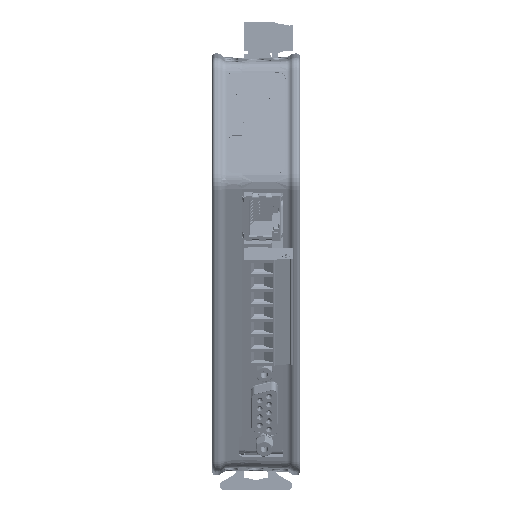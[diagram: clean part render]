
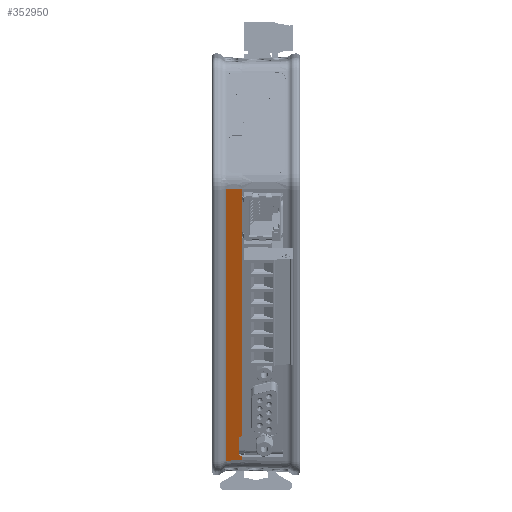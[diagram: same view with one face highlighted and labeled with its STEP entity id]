
A CAD part, top view. The second image highlights one B-rep face of the part: STEP entity #352950.
In plain terms, the highlighted planar face has unit normal (0.035, -0.406, 0.913).
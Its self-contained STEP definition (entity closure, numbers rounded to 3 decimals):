
#2212 = CARTESIAN_POINT ( 'NONE',  ( 9.198, 23.104, 98.178 ) ) ;
#6079 = EDGE_LOOP ( 'NONE', ( #131573, #271629, #190141, #157944, #29336, #159689, #204105, #223811 ) ) ;
#20238 = FACE_OUTER_BOUND ( 'NONE', #6079, .T. ) ;
#23714 = EDGE_CURVE ( 'NONE', #391336, #168625, #418589, .T. ) ;
#29336 = ORIENTED_EDGE ( 'NONE', *, *, #341582, .F. ) ;
#32552 = EDGE_CURVE ( 'NONE', #86167, #354583, #309808, .T. ) ;
#38588 = CARTESIAN_POINT ( 'NONE',  ( 4.292, -60.548, 61.122 ) ) ;
#40645 = CARTESIAN_POINT ( 'NONE',  ( 50.079, -20.879, 77.033 ) ) ;
#41532 = VECTOR ( 'NONE', #260996, 1000. ) ;
#47466 = EDGE_CURVE ( 'NONE', #168625, #354583, #231011, .T. ) ;
#56229 = CARTESIAN_POINT ( 'NONE',  ( 8.2, 23.09, 98.21 ) ) ;
#58538 = CARTESIAN_POINT ( 'NONE',  ( -35.214, -25.938, 78.041 ) ) ;
#80427 = CARTESIAN_POINT ( 'NONE',  ( 9.2, 23.104, 98.178 ) ) ;
#86167 = VERTEX_POINT ( 'NONE', #252632 ) ;
#89137 = CARTESIAN_POINT ( 'NONE',  ( 4.292, 23.034, 98.335 ) ) ;
#92796 = DIRECTION ( 'NONE',  ( 0., -0.914, -0.407 ) ) ;
#93790 = VECTOR ( 'NONE', #375536, 1000. ) ;
#95036 = VERTEX_POINT ( 'NONE', #80427 ) ;
#106268 = VECTOR ( 'NONE', #342891, 1000. ) ;
#108242 = AXIS2_PLACEMENT_3D ( 'NONE', #181439, #109482, #342651 ) ;
#109482 = DIRECTION ( 'NONE',  ( 0.035, -0.406, 0.913 ) ) ;
#110472 = VERTEX_POINT ( 'NONE', #386645 ) ;
#116096 = VECTOR ( 'NONE', #312918, 1000. ) ;
#117798 = LINE ( 'NONE', #56229, #116096 ) ;
#125349 = CARTESIAN_POINT ( 'NONE',  ( 9.2, -52.795, 64.386 ) ) ;
#131573 = ORIENTED_EDGE ( 'NONE', *, *, #23714, .F. ) ;
#157944 = ORIENTED_EDGE ( 'NONE', *, *, #328809, .T. ) ;
#159689 = ORIENTED_EDGE ( 'NONE', *, *, #255559, .T. ) ;
#163451 = LINE ( 'NONE', #2212, #41532 ) ;
#168625 = VERTEX_POINT ( 'NONE', #347091 ) ;
#170049 = DIRECTION ( 'NONE',  ( 0.766, 0.598, 0.237 ) ) ;
#181439 = CARTESIAN_POINT ( 'NONE',  ( 9.198, 23.104, 98.178 ) ) ;
#182808 = VECTOR ( 'NONE', #323124, 1000. ) ;
#190141 = ORIENTED_EDGE ( 'NONE', *, *, #396748, .T. ) ;
#204105 = ORIENTED_EDGE ( 'NONE', *, *, #32552, .T. ) ;
#219753 = LINE ( 'NONE', #58538, #106268 ) ;
#223811 = ORIENTED_EDGE ( 'NONE', *, *, #47466, .F. ) ;
#226318 = CARTESIAN_POINT ( 'NONE',  ( 9.2, 23.104, 98.178 ) ) ;
#231011 = LINE ( 'NONE', #269074, #339304 ) ;
#252632 = CARTESIAN_POINT ( 'NONE',  ( 4.292, 23.034, 98.335 ) ) ;
#255559 = EDGE_CURVE ( 'NONE', #95036, #86167, #163451, .T. ) ;
#257012 = VECTOR ( 'NONE', #170049, 1000. ) ;
#260996 = DIRECTION ( 'NONE',  ( -0.999, -0.014, 0.032 ) ) ;
#269074 = CARTESIAN_POINT ( 'NONE',  ( 9.198, -60.478, 60.965 ) ) ;
#271629 = ORIENTED_EDGE ( 'NONE', *, *, #323553, .T. ) ;
#274802 = PLANE ( 'NONE',  #108242 ) ;
#294803 = VERTEX_POINT ( 'NONE', #125349 ) ;
#309808 = LINE ( 'NONE', #89137, #93790 ) ;
#312918 = DIRECTION ( 'NONE',  ( 0., 0.914, 0.407 ) ) ;
#319748 = LINE ( 'NONE', #226318, #329194 ) ;
#323124 = DIRECTION ( 'NONE',  ( 0., -0.914, -0.407 ) ) ;
#323553 = EDGE_CURVE ( 'NONE', #391336, #110472, #219753, .T. ) ;
#328809 = EDGE_CURVE ( 'NONE', #405033, #294803, #331232, .T. ) ;
#329194 = VECTOR ( 'NONE', #92796, 1000. ) ;
#331232 = LINE ( 'NONE', #40645, #257012 ) ;
#339304 = VECTOR ( 'NONE', #398461, 1000. ) ;
#341582 = EDGE_CURVE ( 'NONE', #95036, #294803, #319748, .T. ) ;
#342651 = DIRECTION ( 'NONE',  ( 0., -0.914, -0.407 ) ) ;
#342891 = DIRECTION ( 'NONE',  ( -0.766, 0.576, 0.286 ) ) ;
#347091 = CARTESIAN_POINT ( 'NONE',  ( 9.2, -60.478, 60.965 ) ) ;
#352950 = ADVANCED_FACE ( 'NONE', ( #20238 ), #274802, .T. ) ;
#354583 = VERTEX_POINT ( 'NONE', #38588 ) ;
#375536 = DIRECTION ( 'NONE',  ( 0., -0.914, -0.407 ) ) ;
#386645 = CARTESIAN_POINT ( 'NONE',  ( 8.2, -58.601, 61.839 ) ) ;
#386778 = CARTESIAN_POINT ( 'NONE',  ( 9.2, 23.104, 98.178 ) ) ;
#391336 = VERTEX_POINT ( 'NONE', #419286 ) ;
#394249 = CARTESIAN_POINT ( 'NONE',  ( 8.2, -53.576, 64.076 ) ) ;
#396748 = EDGE_CURVE ( 'NONE', #110472, #405033, #117798, .T. ) ;
#398461 = DIRECTION ( 'NONE',  ( -0.999, -0.014, 0.032 ) ) ;
#405033 = VERTEX_POINT ( 'NONE', #394249 ) ;
#418589 = LINE ( 'NONE', #386778, #182808 ) ;
#419286 = CARTESIAN_POINT ( 'NONE',  ( 9.2, -59.353, 61.466 ) ) ;
